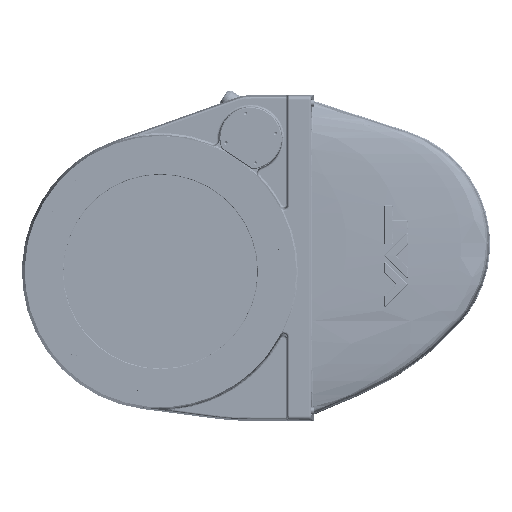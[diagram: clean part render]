
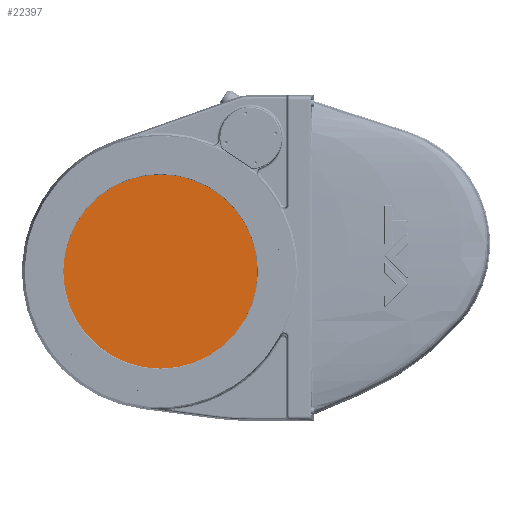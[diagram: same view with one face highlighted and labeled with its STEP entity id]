
A CAD part, top view. The second image highlights one B-rep face of the part: STEP entity #22397.
In plain terms, the highlighted planar face has unit normal (0, 0, 1).
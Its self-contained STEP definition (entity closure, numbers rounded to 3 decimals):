
#18694=PLANE('',#66000);
#20165=FACE_OUTER_BOUND('',#30408,.T.);
#22397=ADVANCED_FACE('',(#20165),#18694,.F.);
#30408=EDGE_LOOP('',(#35872));
#35872=ORIENTED_EDGE('',*,*,#55706,.F.);
#50442=VERTEX_POINT('',#86843);
#55706=EDGE_CURVE('',#50442,#50442,#62992,.T.);
#62992=CIRCLE('',#65997,250.1);
#65997=AXIS2_PLACEMENT_3D('',#86842,#72088,#72089);
#66000=AXIS2_PLACEMENT_3D('',#86847,#72094,#72095);
#72088=DIRECTION('',(0.,0.,-1.));
#72089=DIRECTION('',(-1.,0.,0.));
#72094=DIRECTION('',(0.,0.,-1.));
#72095=DIRECTION('',(-1.,0.,0.));
#86842=CARTESIAN_POINT('',(0.,0.001,
32.74));
#86843=CARTESIAN_POINT('',(-250.1,0.001,32.74));
#86847=CARTESIAN_POINT('',(0.,0.001,
32.74));
